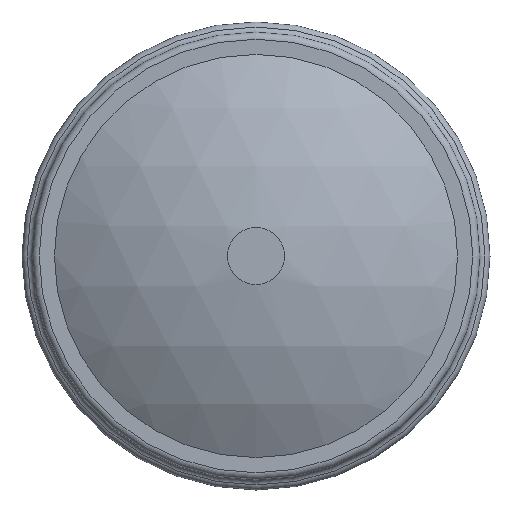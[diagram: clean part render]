
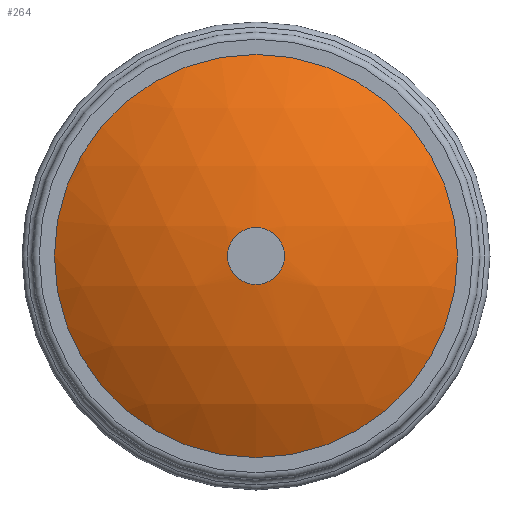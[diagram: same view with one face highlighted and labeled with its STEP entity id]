
A CAD part, left-side view. The second image highlights one B-rep face of the part: STEP entity #264.
In plain terms, the highlighted spherical face has radius 179.578 mm.
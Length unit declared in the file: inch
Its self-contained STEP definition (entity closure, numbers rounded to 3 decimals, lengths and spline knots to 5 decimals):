
#45=SPHERICAL_SURFACE('',#316,7.07);
#48=FACE_BOUND('',#80,.T.);
#65=FACE_OUTER_BOUND('',#79,.T.);
#79=EDGE_LOOP('',(#215));
#80=EDGE_LOOP('',(#216));
#95=CIRCLE('',#291,0.525);
#103=CIRCLE('',#303,3.71546);
#122=VERTEX_POINT('',#458);
#129=VERTEX_POINT('',#479);
#146=EDGE_CURVE('',#122,#122,#95,.T.);
#155=EDGE_CURVE('',#129,#129,#103,.T.);
#215=ORIENTED_EDGE('',*,*,#155,.F.);
#216=ORIENTED_EDGE('',*,*,#146,.T.);
#264=ADVANCED_FACE('',(#65,#48),#45,.T.);
#291=AXIS2_PLACEMENT_3D('',#460,#349,#350);
#303=AXIS2_PLACEMENT_3D('',#480,#374,#375);
#316=AXIS2_PLACEMENT_3D('',#501,#401,#402);
#349=DIRECTION('center_axis',(1.,0.,0.));
#350=DIRECTION('ref_axis',(0.,0.,1.));
#374=DIRECTION('center_axis',(1.,0.,0.));
#375=DIRECTION('ref_axis',(0.,0.,-1.));
#401=DIRECTION('center_axis',(0.,0.,1.));
#402=DIRECTION('ref_axis',(-1.,-0.003,0.));
#458=CARTESIAN_POINT('',(0.01952,0.,-0.525));
#460=CARTESIAN_POINT('Origin',(0.01952,0.,
0.));
#479=CARTESIAN_POINT('',(1.055,3.71546,0.));
#480=CARTESIAN_POINT('Origin',(1.055,0.,0.));
#501=CARTESIAN_POINT('Origin',(7.07,0.,0.));
